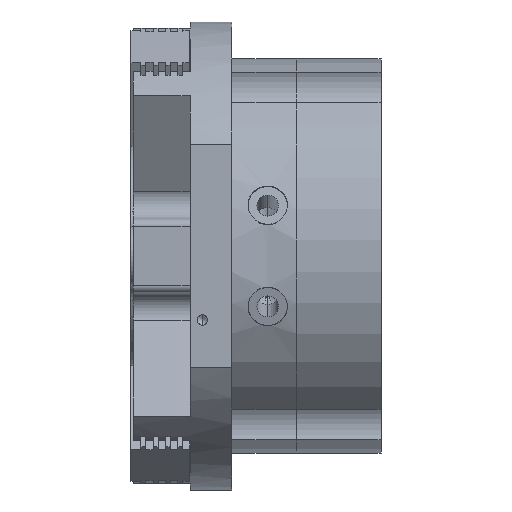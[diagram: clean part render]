
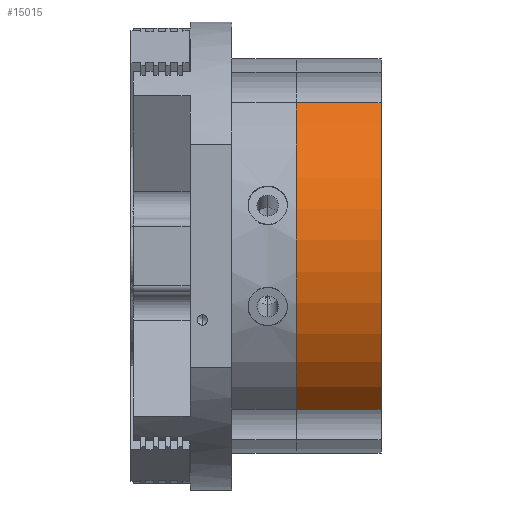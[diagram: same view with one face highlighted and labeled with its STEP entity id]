
A CAD part, left-side view. The second image highlights one B-rep face of the part: STEP entity #15015.
In plain terms, the highlighted cylindrical face has radius 80 mm (diameter 160 mm), a partial arc.
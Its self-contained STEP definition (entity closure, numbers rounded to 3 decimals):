
#231 = DIRECTION ( 'NONE',  ( 0., 1., 0. ) ) ;
#258 = VECTOR ( 'NONE', #13788, 1000. ) ;
#462 = EDGE_CURVE ( 'NONE', #8424, #8558, #13371, .T. ) ;
#1404 = EDGE_CURVE ( 'NONE', #8558, #8753, #3530, .T. ) ;
#2439 = AXIS2_PLACEMENT_3D ( 'NONE', #12743, #231, #3580 ) ;
#2704 = ORIENTED_EDGE ( 'NONE', *, *, #1404, .T. ) ;
#3530 = LINE ( 'NONE', #11534, #258 ) ;
#3580 = DIRECTION ( 'NONE',  ( 0., 0., -1. ) ) ;
#3656 = CIRCLE ( 'NONE', #8645, 80. ) ;
#4102 = CARTESIAN_POINT ( 'NONE',  ( -62.219, 34.5, 50.287 ) ) ;
#4587 = DIRECTION ( 'NONE',  ( 0., -1., 0. ) ) ;
#5271 = AXIS2_PLACEMENT_3D ( 'NONE', #11541, #4587, #5872 ) ;
#5872 = DIRECTION ( 'NONE',  ( 0., 0., -1. ) ) ;
#5880 = EDGE_CURVE ( 'NONE', #9443, #8424, #10754, .T. ) ;
#5891 = EDGE_CURVE ( 'NONE', #8753, #9443, #3656, .T. ) ;
#6981 = CARTESIAN_POINT ( 'NONE',  ( 62.219, 0., 50.287 ) ) ;
#7928 = EDGE_LOOP ( 'NONE', ( #14283, #2704, #10312, #10576 ) ) ;
#8424 = VERTEX_POINT ( 'NONE', #11820 ) ;
#8558 = VERTEX_POINT ( 'NONE', #6981 ) ;
#8645 = AXIS2_PLACEMENT_3D ( 'NONE', #11190, #12188, #9923 ) ;
#8699 = CARTESIAN_POINT ( 'NONE',  ( 62.219, 34.5, 50.287 ) ) ;
#8753 = VERTEX_POINT ( 'NONE', #8699 ) ;
#8754 = DIRECTION ( 'NONE',  ( 0., -1., 0. ) ) ;
#8914 = CARTESIAN_POINT ( 'NONE',  ( -62.219, 34.5, 50.287 ) ) ;
#9443 = VERTEX_POINT ( 'NONE', #8914 ) ;
#9923 = DIRECTION ( 'NONE',  ( 0., 0., -1. ) ) ;
#10312 = ORIENTED_EDGE ( 'NONE', *, *, #5891, .T. ) ;
#10576 = ORIENTED_EDGE ( 'NONE', *, *, #5880, .T. ) ;
#10754 = LINE ( 'NONE', #4102, #11115 ) ;
#11115 = VECTOR ( 'NONE', #8754, 1000. ) ;
#11190 = CARTESIAN_POINT ( 'NONE',  ( 0., 34.5, 0. ) ) ;
#11534 = CARTESIAN_POINT ( 'NONE',  ( 62.219, -21.5, 50.287 ) ) ;
#11541 = CARTESIAN_POINT ( 'NONE',  ( 0., 34.5, 0. ) ) ;
#11820 = CARTESIAN_POINT ( 'NONE',  ( -62.219, 0., 50.287 ) ) ;
#11933 = FACE_OUTER_BOUND ( 'NONE', #7928, .T. ) ;
#12188 = DIRECTION ( 'NONE',  ( 0., -1., 0. ) ) ;
#12743 = CARTESIAN_POINT ( 'NONE',  ( 0., 0., 0. ) ) ;
#13371 = CIRCLE ( 'NONE', #2439, 80. ) ;
#13788 = DIRECTION ( 'NONE',  ( 0., 1., 0. ) ) ;
#13972 = CYLINDRICAL_SURFACE ( 'NONE', #5271, 80. ) ;
#14283 = ORIENTED_EDGE ( 'NONE', *, *, #462, .T. ) ;
#15015 = ADVANCED_FACE ( 'NONE', ( #11933 ), #13972, .T. ) ;
